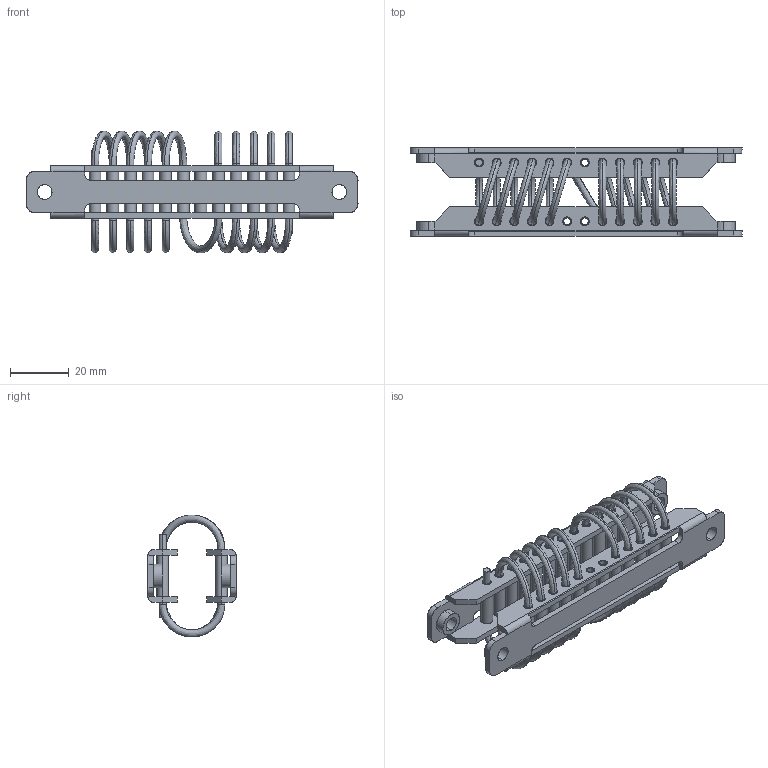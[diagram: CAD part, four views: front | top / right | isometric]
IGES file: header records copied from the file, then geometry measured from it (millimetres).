
Start section: SolidWorks IGES file using analytic representation for surfaces
Bounding box: 113 x 30 x 41.49 mm (x, y, z)
Surface area: 25825.9 mm2 (no closed solid volume)
Topology: 0 solids, 0 shells, 288 faces, 8272 edges, 8272 vertices
Faces by surface type: bspline 156, revolution 132
